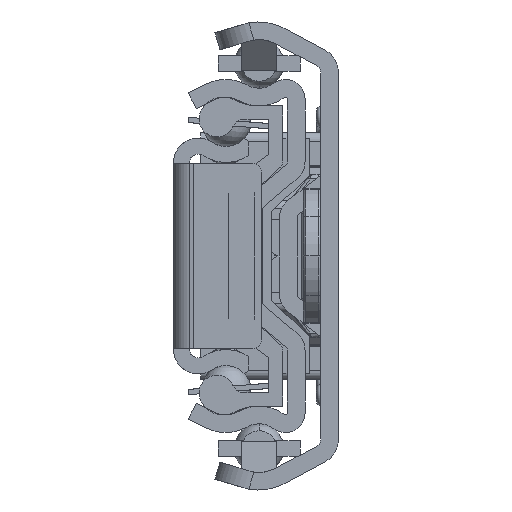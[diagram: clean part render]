
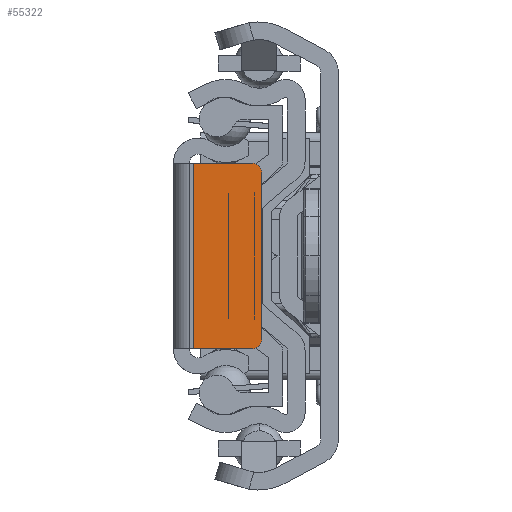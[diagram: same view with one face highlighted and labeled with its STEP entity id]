
A CAD part, left-side view. The second image highlights one B-rep face of the part: STEP entity #55322.
In plain terms, the highlighted planar face has unit normal (-1, 0, 0).
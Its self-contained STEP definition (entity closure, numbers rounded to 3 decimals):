
#49851=DIRECTION('',(0.,-1.,0.));
#49852=VECTOR('',#49851,6.7);
#49853=CARTESIAN_POINT('',(0.,-2.3,10.5));
#49854=LINE('',#49853,#49852);
#50810=DIRECTION('',(0.,-1.,0.));
#50811=VECTOR('',#50810,6.7);
#50812=CARTESIAN_POINT('',(0.,-2.3,-10.5));
#50813=LINE('',#50812,#50811);
#50814=CARTESIAN_POINT('',(0.,-9.,9.5));
#50815=DIRECTION('',(-1.,0.,0.));
#50816=DIRECTION('',(0.,-1.,0.));
#50817=AXIS2_PLACEMENT_3D('',#50814,#50815,#50816);
#50819=CARTESIAN_POINT('',(0.,-9.,-9.5));
#50820=DIRECTION('',(-1.,0.,0.));
#50821=DIRECTION('',(0.,0.,-1.));
#50822=AXIS2_PLACEMENT_3D('',#50819,#50820,#50821);
#50824=DIRECTION('',(0.,0.,1.));
#50825=VECTOR('',#50824,21.);
#50826=CARTESIAN_POINT('',(0.,-2.3,-10.5));
#50827=LINE('',#50826,#50825);
#50836=DIRECTION('',(0.,0.,1.));
#50837=VECTOR('',#50836,19.);
#50838=CARTESIAN_POINT('',(0.,-10.,-9.5));
#50839=LINE('',#50838,#50837);
#53509=CARTESIAN_POINT('',(0.,-2.3,-10.5));
#53510=CARTESIAN_POINT('',(0.,-2.3,10.5));
#53511=VERTEX_POINT('',#53509);
#53512=VERTEX_POINT('',#53510);
#53534=CARTESIAN_POINT('',(0.,-10.,9.5));
#53535=VERTEX_POINT('',#53534);
#53536=CARTESIAN_POINT('',(0.,-9.,10.5));
#53537=VERTEX_POINT('',#53536);
#53538=CARTESIAN_POINT('',(0.,-9.,-10.5));
#53539=CARTESIAN_POINT('',(0.,-10.,-9.5));
#53540=VERTEX_POINT('',#53538);
#53541=VERTEX_POINT('',#53539);
#55307=CARTESIAN_POINT('',(0.,-2.3,-10.5));
#55308=DIRECTION('',(-1.,0.,0.));
#55309=DIRECTION('',(0.,-1.,0.));
#55310=AXIS2_PLACEMENT_3D('',#55307,#55308,#55309);
#55311=PLANE('',#55310);
#55312=ORIENTED_EDGE('',*,*,#54448,.F.);
#55314=ORIENTED_EDGE('',*,*,#55313,.F.);
#55315=ORIENTED_EDGE('',*,*,#55298,.F.);
#55316=ORIENTED_EDGE('',*,*,#55288,.F.);
#55318=ORIENTED_EDGE('',*,*,#55317,.T.);
#55319=ORIENTED_EDGE('',*,*,#54425,.T.);
#55320=EDGE_LOOP('',(#55312,#55314,#55315,#55316,#55318,#55319));
#55321=FACE_OUTER_BOUND('',#55320,.F.);
#50818=CIRCLE('',#50817,1.);
#50823=CIRCLE('',#50822,1.);
#54425=EDGE_CURVE('',#53512,#53537,#49854,.T.);
#54448=EDGE_CURVE('',#53535,#53537,#50818,.T.);
#55288=EDGE_CURVE('',#53511,#53540,#50813,.T.);
#55298=EDGE_CURVE('',#53540,#53541,#50823,.T.);
#55313=EDGE_CURVE('',#53541,#53535,#50839,.T.);
#55317=EDGE_CURVE('',#53511,#53512,#50827,.T.);
#55322=ADVANCED_FACE('',(#55321),#55311,.T.);
